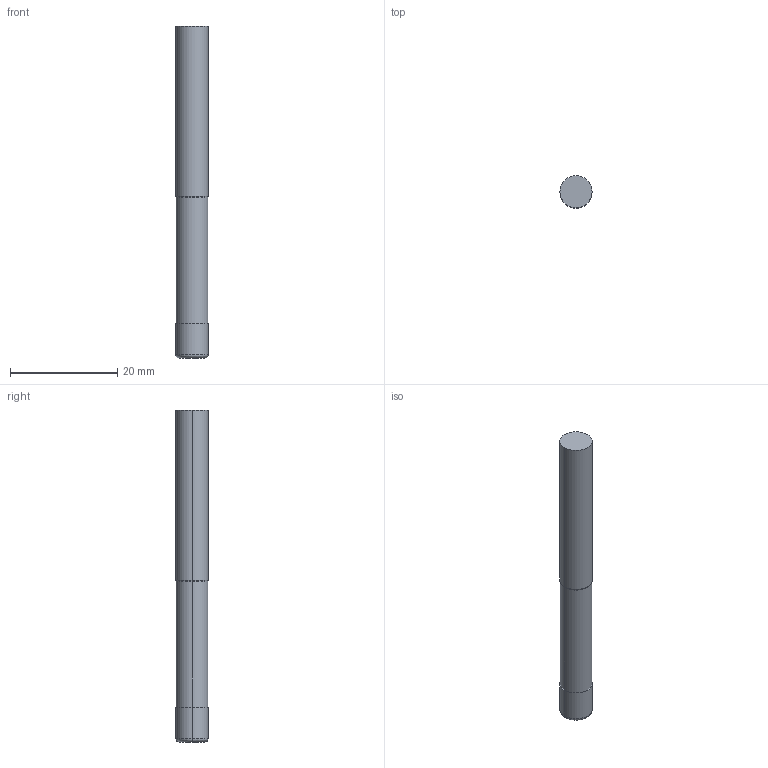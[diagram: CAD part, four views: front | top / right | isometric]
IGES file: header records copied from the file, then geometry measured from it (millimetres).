
Start section: 3D InterOp IGES (v. 2020 1.0.1), Spatial Corp. Copyright (c) 1999-2017.
Global section: file name: WZF27596_6_30_0.6.igs; native system: Spatial Corp.; preprocessor: 3D InterOp GENERIC/IGES 3.0; author: Noname; organization: Noname; date: 20201007.093226; units: metre
Bounding box: 6 x 6 x 62 mm (x, y, z)
Surface area: 1213.9 mm2 (no closed solid volume)
Topology: 0 solids, 0 shells, 13 faces, 48 edges, 48 vertices
Faces by surface type: revolution 10, extrusion 3
